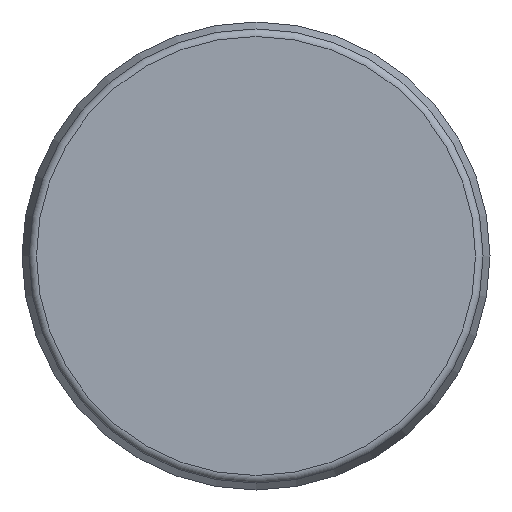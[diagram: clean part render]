
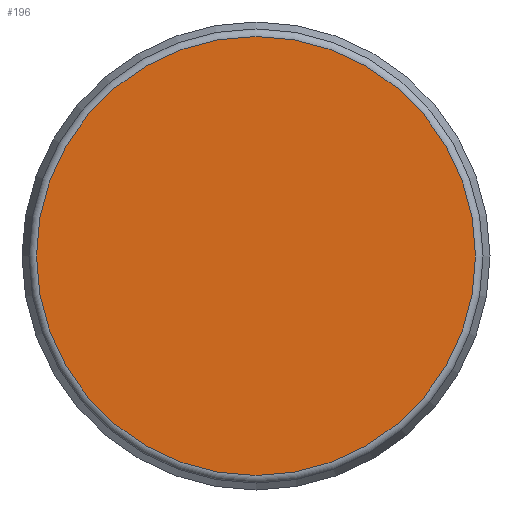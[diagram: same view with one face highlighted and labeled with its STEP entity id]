
A CAD part, front view. The second image highlights one B-rep face of the part: STEP entity #196.
In plain terms, the highlighted planar face has unit normal (0, -1, 0).
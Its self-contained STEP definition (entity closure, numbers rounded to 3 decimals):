
#71=FACE_OUTER_BOUND('',#86,.T.);
#86=EDGE_LOOP('',(#156));
#114=CIRCLE('',#232,2.72);
#128=VERTEX_POINT('',#377);
#142=EDGE_CURVE('',#128,#128,#114,.T.);
#156=ORIENTED_EDGE('',*,*,#142,.F.);
#184=PLANE('',#231);
#196=ADVANCED_FACE('',(#71),#184,.T.);
#231=AXIS2_PLACEMENT_3D('',#376,#283,#284);
#232=AXIS2_PLACEMENT_3D('',#378,#285,#286);
#283=DIRECTION('center_axis',(0.,-1.,0.));
#284=DIRECTION('ref_axis',(0.,0.,-1.));
#285=DIRECTION('center_axis',(0.,1.,0.));
#286=DIRECTION('ref_axis',(-1.,0.,0.));
#376=CARTESIAN_POINT('Origin',(-1.36,0.,0.));
#377=CARTESIAN_POINT('',(-2.72,0.,0.));
#378=CARTESIAN_POINT('Origin',(0.,0.,0.));
